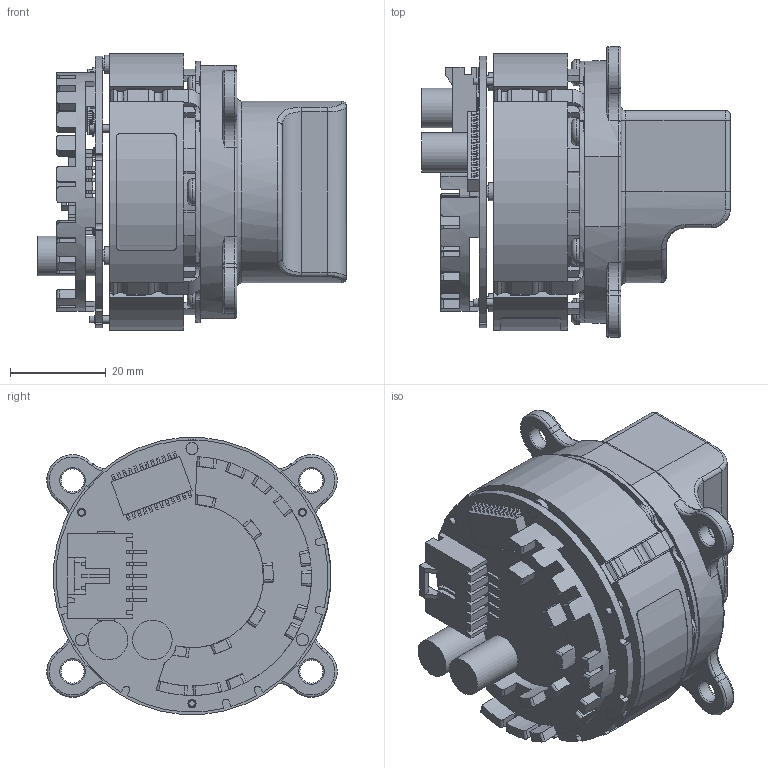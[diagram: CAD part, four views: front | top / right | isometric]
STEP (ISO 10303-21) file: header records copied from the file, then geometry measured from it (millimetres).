
FILE_DESCRIPTION (( 'STEP AP214' ), '1' );
FILE_NAME ('Cerotor 1000 - Smart BLDC Motor.STEP', '2020-04-23T14:12:46', ( '' ), ( '' ), 'SwSTEP 2.0', 'SolidWorks 2019', '' );
FILE_SCHEMA (( 'AUTOMOTIVE_DESIGN' ));
Length unit declared in the file: millimetre
Products named in the file (17): PCB^PD01-MA-00B; PD01-CU-00; HS^PD01-MA-00B; Cap^PD01-MA-00B; Processor^PD01-MA-00B; Mol^PD01-MA-00B; PD37-BB-0; Label^PD01-MA-00B; Connector^PD01-MA-00B; Cerotor 1000 - Smart BLDC Motor; Lam^PD01-MA-00B; MB0112; PD03-SC-0; PD38-PU-0; Pins^PD01-MA-00B; PD37-BO-0; PD01-MA-00B
Assembly tree (24 placements, depth 4):
  Cerotor 1000 - Smart BLDC Motor
    PD38-PU-0
      PD03-SC-0  x6
      PD01-CU-00
      MB0112
      PD37-BO-0
        PD37-BB-0
    PD01-MA-00B
      Lam^PD01-MA-00B
      Mol^PD01-MA-00B
      PCB^PD01-MA-00B
      Pins^PD01-MA-00B  x3
      Label^PD01-MA-00B
      HS^PD01-MA-00B
      Cap^PD01-MA-00B  x2
      Connector^PD01-MA-00B
      Processor^PD01-MA-00B
Bounding box: 64.6 x 60.8 x 57.92 mm (x, y, z)
Volume: 66392 mm3; surface area: 51739.7 mm2
Topology: 21 solids, 21 shells, 1687 faces, 4647 edges, 3067 vertices
Faces by surface type: plane 1024, cylinder 553, torus 70, cone 21, bspline 19
Full cylindrical faces by diameter (mm): 1.6 x15, 1.7 x3, 2.4 x6, 2.5 x9, 2.55 x3, 3 x2, 3.2 x2, 3.3 x6, 3.8 x3, 4.8 x4, 5.5 x6, 6.5 x2, 8.3 x2, 8.8 x2, 15 x2, 26 x1, 36.1 x1, 38 x1, 42.7 x1, 42.73 x1, 49.1 x1
Entity records: 57919 total; most frequent: CARTESIAN_POINT 11600, ORIENTED_EDGE 8888, DIRECTION 8726, EDGE_CURVE 4444, VECTOR 3128, LINE 3128, VERTEX_POINT 2987, AXIS2_PLACEMENT_3D 2799
